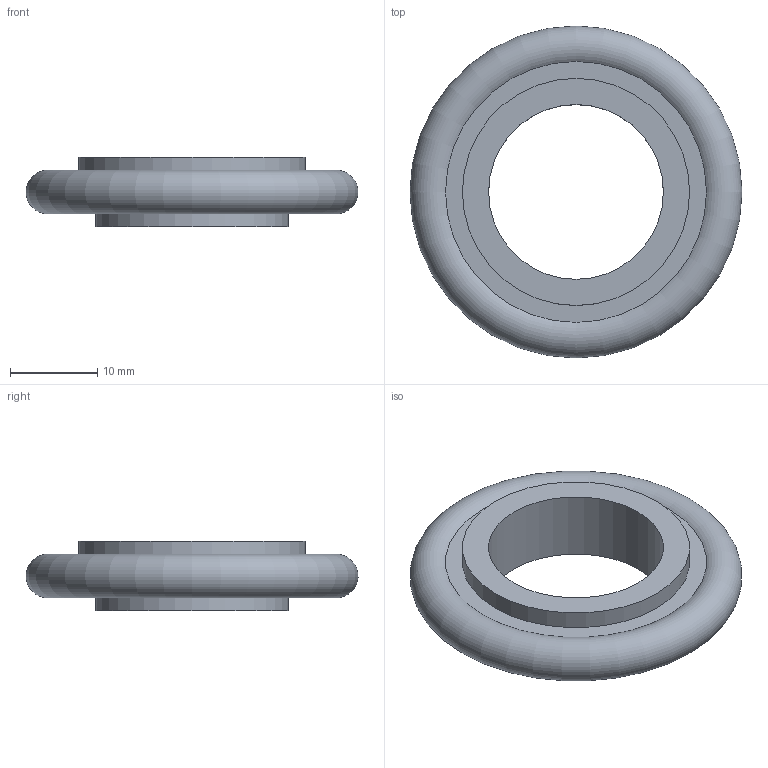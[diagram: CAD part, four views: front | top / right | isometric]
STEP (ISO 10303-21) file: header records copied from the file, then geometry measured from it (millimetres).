
FILE_DESCRIPTION( ( 'Unknown' ), '1' );
FILE_NAME( 'X:/Daten ( aktueller Bestand )/Projekte und Zeichnungen/Solid Edge/STP-Dateien/Dichtungsbauteile und Zubehör KF/1232E.stp', 'Unknown', ( 'Unknown' ), ( 'Unknown' ), 'PSStep 14.0', 'Unknown', ' ' );
FILE_SCHEMA( ( 'AUTOMOTIVE_DESIGN { 1 0 10303 214 1 1 1 1 }' ) );
Length unit declared in the file: millimetre
Products named in the file (2): Assem1; 1_2_0
Assembly tree (1 placements, depth 2):
  Assem1
    1_2_0
Bounding box: 37.99 x 37.99 x 8 mm (x, y, z)
Volume: 3890.7 mm3; surface area: 2811 mm2
Topology: 1 solids, 1 shells, 8 faces, 12 edges, 8 vertices
Faces by surface type: plane 4, cylinder 3, torus 1
Full cylindrical faces by diameter (mm): 20 x1, 22 x1, 26 x1
Entity records: 270 total; most frequent: DIRECTION 36, CARTESIAN_POINT 26, AXIS2_PLACEMENT_3D 18, EDGE_LOOP 16, ORIENTED_EDGE 16, FACE_OUTER_BOUND 12, STYLED_ITEM 8, PRESENTATION_STYLE_ASSIGNMENT 8
